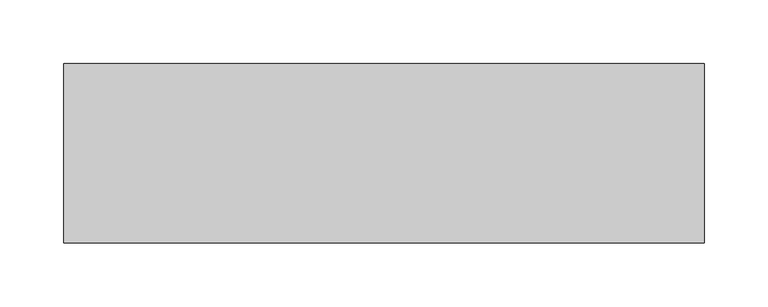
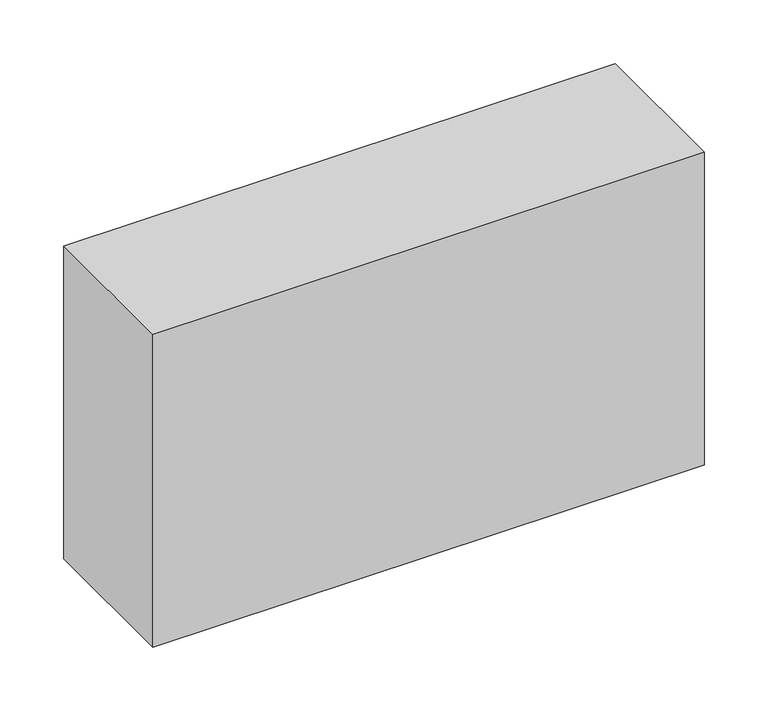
"""IFC4 building model written with IfcOpenShell, lengths in millimetres: proxy geometry."""

from ifc_helpers import new_model, si_unit, frame, origin, place, context, project, spatial, polyline, outline, extrude, source, transform, mapped, element, save


def structural_framing_1b4c9a45(model_context):
    return source(origin(), model_context, "Body", "SweptSolid", [
        extrude(outline(polyline([(-250.05, -70.0), (-250.05, 70.0), (250.05, 70.0), (250.05, -70.0), (-250.05, -70.0)])), frame((0.0, 0.0, -300.0), z_axis=(0.0, 0.0, 1.0), x_axis=(1.0, 0.0, 0.0)), (0.0, 0.0, 1.0), 300.0),
    ])


if __name__ == "__main__":
    model = new_model("IFC4")
    model_context = context("Model", 3, world=origin())
    ifc_project = project(units=[si_unit("LENGTHUNIT", "METRE", prefix="MILLI")], contexts=[model_context])
    site = spatial("IfcSite", under=ifc_project)
    building = spatial("IfcBuilding", under=site)
    placement = place(None, origin())
    structural_framing_shape = structural_framing_1b4c9a45(model_context)
    element("IfcBuildingElementProxy", 1, Name="Structural Framing", at=placement, inside=building, context=model_context, shape_type="MappedRepresentation", body=[
        mapped(structural_framing_shape, transform((0.0, 0.0, 0.0), x_axis=(1.0, 0.0, 0.0), y_axis=(0.0, 1.0, 0.0), z_axis=(0.0, 0.0, 1.0))),
    ])
    save(model, "model.ifc")
